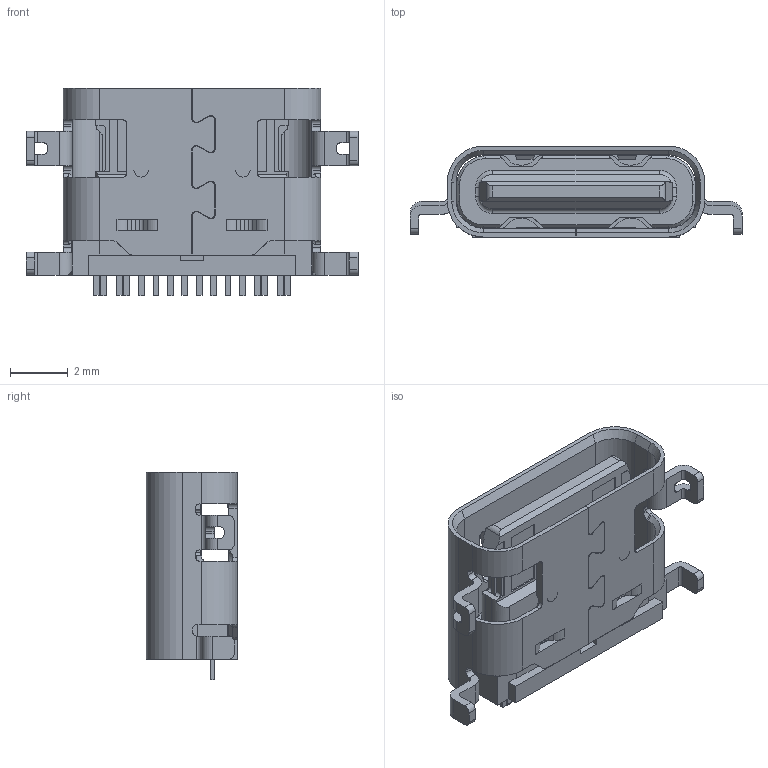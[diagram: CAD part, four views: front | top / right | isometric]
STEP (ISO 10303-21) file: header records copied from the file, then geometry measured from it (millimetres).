
FILE_DESCRIPTION(/* description */ (''),/* implementation_level */ '2;1');
FILE_NAME(/* name */ '',/* time_stamp */ '2019-12-31T16:58:55+08:00',/* author */ (''),/* organization */ (''),/* preprocessor_version */ 'ST-DEVELOPER v15',/* originating_system */ 'SIEMENS PLM Software NX 8.5',/* authorisation */ '');
FILE_SCHEMA (('AUTOMOTIVE_DESIGN { 1 0 10303 214 3 1 1 1 }'));
Length unit declared in the file: millimetre
Products named in the file (1): mj0408DC71CDco9m
Bounding box: 11.54 x 3.18 x 7.22 mm (x, y, z)
Volume: 97.2 mm3; surface area: 442.4 mm2
Topology: 2 solids, 2 shells, 734 faces, 2042 edges, 1331 vertices
Faces by surface type: plane 503, cylinder 200, cone 23, torus 8
Entity records: 23593 total; most frequent: CARTESIAN_POINT 4572, ORIENTED_EDGE 4056, DIRECTION 3838, EDGE_CURVE 2028, LINE 1546, VECTOR 1546, VERTEX_POINT 1326, AXIS2_PLACEMENT_3D 1146
